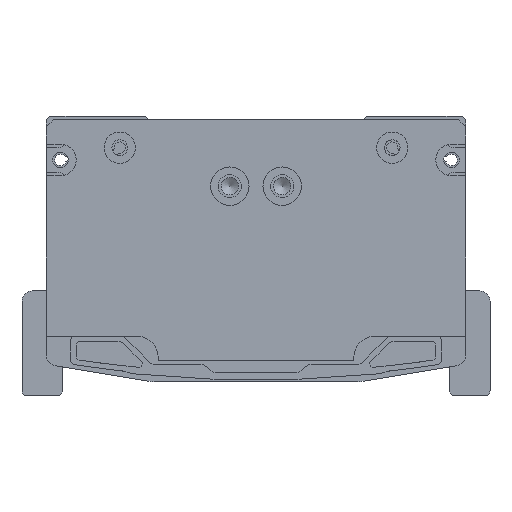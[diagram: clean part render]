
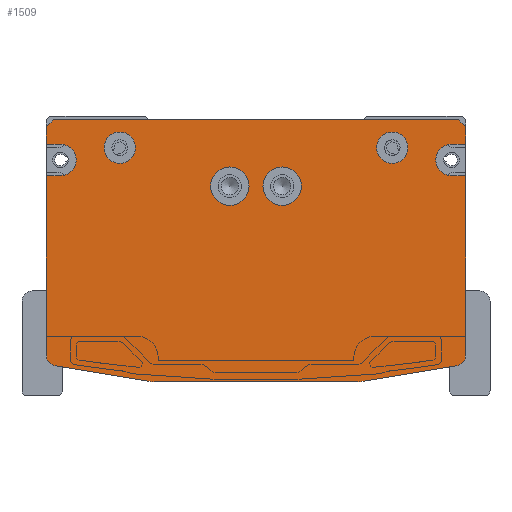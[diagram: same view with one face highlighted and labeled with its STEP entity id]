
A CAD part, front view. The second image highlights one B-rep face of the part: STEP entity #1509.
In plain terms, the highlighted planar face has unit normal (0, -1, 0).
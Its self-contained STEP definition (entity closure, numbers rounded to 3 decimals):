
#1509=ADVANCED_FACE('',(#4588,#4589,#4590,#4591,#4592),#2098,.F.);
#2098=PLANE('',#15019);
#2509=LINE('',#21294,#3528);
#2513=LINE('',#21302,#3532);
#2645=LINE('',#22033,#3664);
#2672=LINE('',#22087,#3691);
#2676=LINE('',#22095,#3695);
#2850=LINE('',#23282,#3869);
#2852=LINE('',#23285,#3871);
#2856=LINE('',#23292,#3875);
#2859=LINE('',#23301,#3878);
#2872=LINE('',#23336,#3891);
#2877=LINE('',#23350,#3896);
#2881=LINE('',#23362,#3900);
#2903=LINE('',#23424,#3922);
#2906=LINE('',#23433,#3925);
#3528=VECTOR('',#16582,1.);
#3532=VECTOR('',#16586,1.);
#3664=VECTOR('',#17028,1.);
#3691=VECTOR('',#17069,1.);
#3695=VECTOR('',#17073,1.);
#3869=VECTOR('',#17881,1.);
#3871=VECTOR('',#17885,1.);
#3875=VECTOR('',#17891,1.);
#3878=VECTOR('',#17902,1.);
#3891=VECTOR('',#17935,1.);
#3896=VECTOR('',#17948,1.);
#3900=VECTOR('',#17960,1.);
#3922=VECTOR('',#18036,1.);
#3925=VECTOR('',#18047,1.);
#4588=FACE_BOUND('',#5594,.T.);
#4589=FACE_BOUND('',#5595,.T.);
#4590=FACE_BOUND('',#5596,.T.);
#4591=FACE_BOUND('',#5597,.T.);
#4592=FACE_BOUND('',#5598,.T.);
#5594=EDGE_LOOP('',(#8193));
#5595=EDGE_LOOP('',(#8194));
#5596=EDGE_LOOP('',(#8195,#8196,#8197,#8198,#8199,#8200,#8201,#8202,#8203,
#8204,#8205,#8206,#8207,#8208,#8209,#8210,#8211,#8212,#8213,#8214));
#5597=EDGE_LOOP('',(#8215));
#5598=EDGE_LOOP('',(#8216));
#8193=ORIENTED_EDGE('',*,*,#12535,.T.);
#8194=ORIENTED_EDGE('',*,*,#12539,.T.);
#8195=ORIENTED_EDGE('',*,*,#12600,.T.);
#8196=ORIENTED_EDGE('',*,*,#12596,.F.);
#8197=ORIENTED_EDGE('',*,*,#12594,.F.);
#8198=ORIENTED_EDGE('',*,*,#12591,.F.);
#8199=ORIENTED_EDGE('',*,*,#12587,.T.);
#8200=ORIENTED_EDGE('',*,*,#12584,.T.);
#8201=ORIENTED_EDGE('',*,*,#12229,.F.);
#8202=ORIENTED_EDGE('',*,*,#12570,.T.);
#8203=ORIENTED_EDGE('',*,*,#12567,.T.);
#8204=ORIENTED_EDGE('',*,*,#12565,.F.);
#8205=ORIENTED_EDGE('',*,*,#12225,.F.);
#8206=ORIENTED_EDGE('',*,*,#12561,.T.);
#8207=ORIENTED_EDGE('',*,*,#12198,.F.);
#8208=ORIENTED_EDGE('',*,*,#12559,.T.);
#8209=ORIENTED_EDGE('',*,*,#11964,.F.);
#8210=ORIENTED_EDGE('',*,*,#12635,.T.);
#8211=ORIENTED_EDGE('',*,*,#12632,.T.);
#8212=ORIENTED_EDGE('',*,*,#12630,.F.);
#8213=ORIENTED_EDGE('',*,*,#11960,.F.);
#8214=ORIENTED_EDGE('',*,*,#12603,.T.);
#8215=ORIENTED_EDGE('',*,*,#12546,.F.);
#8216=ORIENTED_EDGE('',*,*,#12542,.F.);
#10483=VERTEX_POINT('',#21293);
#10484=VERTEX_POINT('',#21295);
#10487=VERTEX_POINT('',#21301);
#10488=VERTEX_POINT('',#21303);
#10611=VERTEX_POINT('',#22032);
#10612=VERTEX_POINT('',#22034);
#10631=VERTEX_POINT('',#22086);
#10632=VERTEX_POINT('',#22088);
#10635=VERTEX_POINT('',#22094);
#10636=VERTEX_POINT('',#22096);
#10851=VERTEX_POINT('',#23225);
#10855=VERTEX_POINT('',#23236);
#10858=VERTEX_POINT('',#23245);
#10861=VERTEX_POINT('',#23255);
#10869=VERTEX_POINT('',#23290);
#10871=VERTEX_POINT('',#23297);
#10882=VERTEX_POINT('',#23331);
#10884=VERTEX_POINT('',#23337);
#10887=VERTEX_POINT('',#23345);
#10889=VERTEX_POINT('',#23351);
#10890=VERTEX_POINT('',#23355);
#10893=VERTEX_POINT('',#23363);
#10905=VERTEX_POINT('',#23422);
#10907=VERTEX_POINT('',#23429);
#11960=EDGE_CURVE('',#10483,#10484,#2509,.T.);
#11964=EDGE_CURVE('',#10487,#10488,#2513,.T.);
#12198=EDGE_CURVE('',#10611,#10612,#2645,.T.);
#12225=EDGE_CURVE('',#10631,#10632,#2672,.T.);
#12229=EDGE_CURVE('',#10635,#10636,#2676,.T.);
#12535=EDGE_CURVE('',#10851,#10851,#13790,.T.);
#12539=EDGE_CURVE('',#10855,#10855,#13794,.T.);
#12542=EDGE_CURVE('',#10858,#10858,#13797,.T.);
#12546=EDGE_CURVE('',#10861,#10861,#13801,.T.);
#12559=EDGE_CURVE('',#10611,#10488,#2850,.T.);
#12561=EDGE_CURVE('',#10631,#10612,#2852,.T.);
#12565=EDGE_CURVE('',#10632,#10869,#2856,.T.);
#12567=EDGE_CURVE('',#10871,#10869,#13808,.T.);
#12570=EDGE_CURVE('',#10635,#10871,#2859,.T.);
#12584=EDGE_CURVE('',#10882,#10636,#13811,.T.);
#12587=EDGE_CURVE('',#10884,#10882,#2872,.T.);
#12591=EDGE_CURVE('',#10884,#10887,#13814,.T.);
#12594=EDGE_CURVE('',#10887,#10889,#2877,.T.);
#12596=EDGE_CURVE('',#10889,#10890,#13815,.T.);
#12600=EDGE_CURVE('',#10893,#10890,#2881,.T.);
#12603=EDGE_CURVE('',#10483,#10893,#13818,.T.);
#12630=EDGE_CURVE('',#10484,#10905,#2903,.T.);
#12632=EDGE_CURVE('',#10907,#10905,#13826,.T.);
#12635=EDGE_CURVE('',#10487,#10907,#2906,.T.);
#13790=CIRCLE('',#14920,5.5);
#13794=CIRCLE('',#14927,5.5);
#13797=CIRCLE('',#14933,4.5);
#13801=CIRCLE('',#14940,4.5);
#13808=CIRCLE('',#14958,4.5);
#13811=CIRCLE('',#14967,3.);
#13814=CIRCLE('',#14972,10.);
#13815=CIRCLE('',#14975,10.);
#13818=CIRCLE('',#14980,3.);
#13826=CIRCLE('',#15007,4.5);
#14920=AXIS2_PLACEMENT_3D('',#23224,#17806,#17807);
#14927=AXIS2_PLACEMENT_3D('',#23235,#17820,#17821);
#14933=AXIS2_PLACEMENT_3D('',#23244,#17832,#17833);
#14940=AXIS2_PLACEMENT_3D('',#23254,#17846,#17847);
#14958=AXIS2_PLACEMENT_3D('',#23296,#17896,#17897);
#14967=AXIS2_PLACEMENT_3D('',#23330,#17928,#17929);
#14972=AXIS2_PLACEMENT_3D('',#23344,#17942,#17943);
#14975=AXIS2_PLACEMENT_3D('',#23354,#17952,#17953);
#14980=AXIS2_PLACEMENT_3D('',#23367,#17966,#17967);
#15007=AXIS2_PLACEMENT_3D('',#23428,#18041,#18042);
#15019=AXIS2_PLACEMENT_3D('',#23450,#18072,#18073);
#16582=DIRECTION('',(0.,0.,1.));
#16586=DIRECTION('',(0.,0.,1.));
#17028=DIRECTION('',(1.,0.,0.));
#17069=DIRECTION('',(0.,0.,-1.));
#17073=DIRECTION('',(0.,0.,-1.));
#17806=DIRECTION('',(0.,1.,0.));
#17807=DIRECTION('',(1.,0.,0.));
#17820=DIRECTION('',(0.,1.,0.));
#17821=DIRECTION('',(1.,0.,0.));
#17832=DIRECTION('',(0.,-1.,0.));
#17833=DIRECTION('',(1.,0.,0.));
#17846=DIRECTION('',(0.,-1.,0.));
#17847=DIRECTION('',(1.,0.,0.));
#17881=DIRECTION('',(-0.707,0.,-0.707));
#17885=DIRECTION('',(-0.707,0.,0.707));
#17891=DIRECTION('',(-1.,0.,0.));
#17896=DIRECTION('',(0.,1.,0.));
#17897=DIRECTION('',(0.,0.,-1.));
#17902=DIRECTION('',(-1.,0.,0.));
#17928=DIRECTION('',(0.,-1.,0.));
#17929=DIRECTION('',(0.164,0.,-0.986));
#17935=DIRECTION('',(0.986,0.,0.164));
#17942=DIRECTION('',(0.,1.,0.));
#17943=DIRECTION('',(0.164,0.,-0.986));
#17948=DIRECTION('',(-1.,0.,0.));
#17952=DIRECTION('',(0.,1.,0.));
#17953=DIRECTION('',(0.,0.,-1.));
#17960=DIRECTION('',(0.986,0.,-0.164));
#17966=DIRECTION('',(0.,-1.,0.));
#17967=DIRECTION('',(-1.,0.,0.));
#18036=DIRECTION('',(1.,0.,0.));
#18041=DIRECTION('',(0.,1.,0.));
#18042=DIRECTION('',(0.,0.,1.));
#18047=DIRECTION('',(1.,0.,0.));
#18072=DIRECTION('',(0.,1.,0.));
#18073=DIRECTION('',(1.,0.,0.));
#21293=CARTESIAN_POINT('',(-60.,-612.,-69.459));
#21294=CARTESIAN_POINT('',(-60.,-612.,-69.459));
#21295=CARTESIAN_POINT('',(-60.,-612.,-18.));
#21301=CARTESIAN_POINT('',(-60.,-612.,-9.));
#21302=CARTESIAN_POINT('',(-60.,-612.,-9.));
#21303=CARTESIAN_POINT('',(-60.,-612.,-4.));
#22032=CARTESIAN_POINT('',(-58.,-612.,-2.));
#22033=CARTESIAN_POINT('',(-58.,-612.,-2.));
#22034=CARTESIAN_POINT('',(58.,-612.,-2.));
#22086=CARTESIAN_POINT('',(60.,-612.,-4.));
#22087=CARTESIAN_POINT('',(60.,-612.,-4.));
#22088=CARTESIAN_POINT('',(60.,-612.,-9.));
#22094=CARTESIAN_POINT('',(60.,-612.,-18.));
#22095=CARTESIAN_POINT('',(60.,-612.,-18.));
#22096=CARTESIAN_POINT('',(60.,-612.,-69.459));
#23224=CARTESIAN_POINT('',(7.5,-612.,-21.));
#23225=CARTESIAN_POINT('',(13.,-612.,-21.));
#23235=CARTESIAN_POINT('',(-7.5,-612.,-21.));
#23236=CARTESIAN_POINT('',(-2.,-612.,-21.));
#23244=CARTESIAN_POINT('',(-39.,-612.,-10.));
#23245=CARTESIAN_POINT('',(-34.5,-612.,-10.));
#23254=CARTESIAN_POINT('',(39.,-612.,-10.));
#23255=CARTESIAN_POINT('',(43.5,-612.,-10.));
#23282=CARTESIAN_POINT('',(-58.,-612.,-2.));
#23285=CARTESIAN_POINT('',(60.,-612.,-4.));
#23290=CARTESIAN_POINT('',(56.,-612.,-9.));
#23292=CARTESIAN_POINT('',(60.,-612.,-9.));
#23296=CARTESIAN_POINT('',(56.,-612.,-13.5));
#23297=CARTESIAN_POINT('',(56.,-612.,-18.));
#23301=CARTESIAN_POINT('',(60.,-612.,-18.));
#23330=CARTESIAN_POINT('',(57.,-612.,-69.459));
#23331=CARTESIAN_POINT('',(57.493,-612.,-72.418));
#23336=CARTESIAN_POINT('',(30.816,-612.,-76.864));
#23337=CARTESIAN_POINT('',(30.816,-612.,-76.864));
#23344=CARTESIAN_POINT('',(29.172,-612.,-67.));
#23345=CARTESIAN_POINT('',(29.172,-612.,-77.));
#23350=CARTESIAN_POINT('',(29.172,-612.,-77.));
#23351=CARTESIAN_POINT('',(-29.172,-612.,-77.));
#23354=CARTESIAN_POINT('',(-29.172,-612.,-67.));
#23355=CARTESIAN_POINT('',(-30.816,-612.,-76.864));
#23362=CARTESIAN_POINT('',(-57.493,-612.,-72.418));
#23363=CARTESIAN_POINT('',(-57.493,-612.,-72.418));
#23367=CARTESIAN_POINT('',(-57.,-612.,-69.459));
#23422=CARTESIAN_POINT('',(-56.,-612.,-18.));
#23424=CARTESIAN_POINT('',(-60.,-612.,-18.));
#23428=CARTESIAN_POINT('',(-56.,-612.,-13.5));
#23429=CARTESIAN_POINT('',(-56.,-612.,-9.));
#23433=CARTESIAN_POINT('',(-60.,-612.,-9.));
#23450=CARTESIAN_POINT('',(0.,-612.,-2.));
